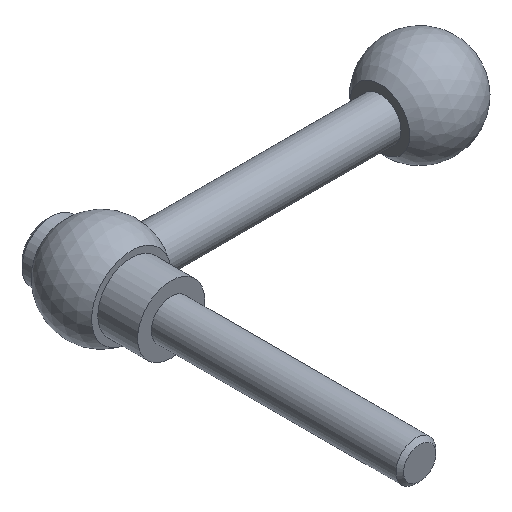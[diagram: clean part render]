
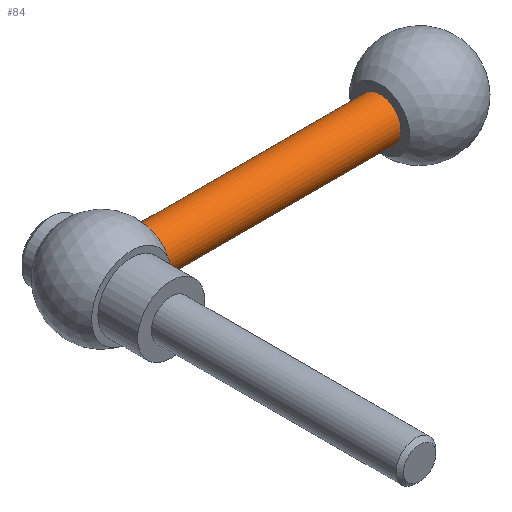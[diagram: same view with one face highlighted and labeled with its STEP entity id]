
A CAD part, isometric view. The second image highlights one B-rep face of the part: STEP entity #84.
In plain terms, the highlighted cylindrical face has radius 4.25 mm (diameter 8.5 mm), a full revolution.
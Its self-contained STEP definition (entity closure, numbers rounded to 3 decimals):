
#84 = ADVANCED_FACE( '', ( #116, #117 ), #118, .T. );
#116 = FACE_OUTER_BOUND( '', #154, .T. );
#117 = FACE_OUTER_BOUND( '', #155, .T. );
#118 = CYLINDRICAL_SURFACE( '', #156, 4.25 );
#154 = EDGE_LOOP( '', ( #210 ) );
#155 = EDGE_LOOP( '', ( #211 ) );
#156 = AXIS2_PLACEMENT_3D( '', #212, #213, #214 );
#210 = ORIENTED_EDGE( '', *, *, #239, .F. );
#211 = ORIENTED_EDGE( '', *, *, #236, .F. );
#212 = CARTESIAN_POINT( '', ( 74., 14., 0. ) );
#213 = DIRECTION( '', ( -1., 0., 0. ) );
#214 = DIRECTION( '', ( 0., 0., -1. ) );
#236 = EDGE_CURVE( '', #256, #256, #257, .T. );
#239 = EDGE_CURVE( '', #262, #262, #263, .T. );
#256 = VERTEX_POINT( '', #280 );
#257 = CIRCLE( '', #281, 4.25 );
#262 = VERTEX_POINT( '', #286 );
#263 = CIRCLE( '', #287, 4.25 );
#280 = CARTESIAN_POINT( '', ( 9.052, 14., 4.25 ) );
#281 = AXIS2_PLACEMENT_3D( '', #311, #312, #313 );
#286 = CARTESIAN_POINT( '', ( 56., 14., -4.25 ) );
#287 = AXIS2_PLACEMENT_3D( '', #320, #321, #322 );
#311 = CARTESIAN_POINT( '', ( 9.052, 14., 0. ) );
#312 = DIRECTION( '', ( -1., 0., 0. ) );
#313 = DIRECTION( '', ( 0., 0., 1. ) );
#320 = CARTESIAN_POINT( '', ( 56., 14., 0. ) );
#321 = DIRECTION( '', ( 1., 0., 0. ) );
#322 = DIRECTION( '', ( 0., 0., -1. ) );
